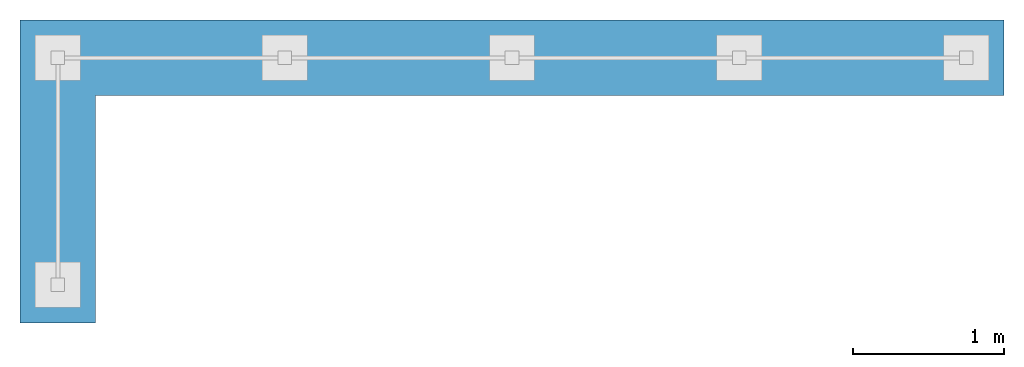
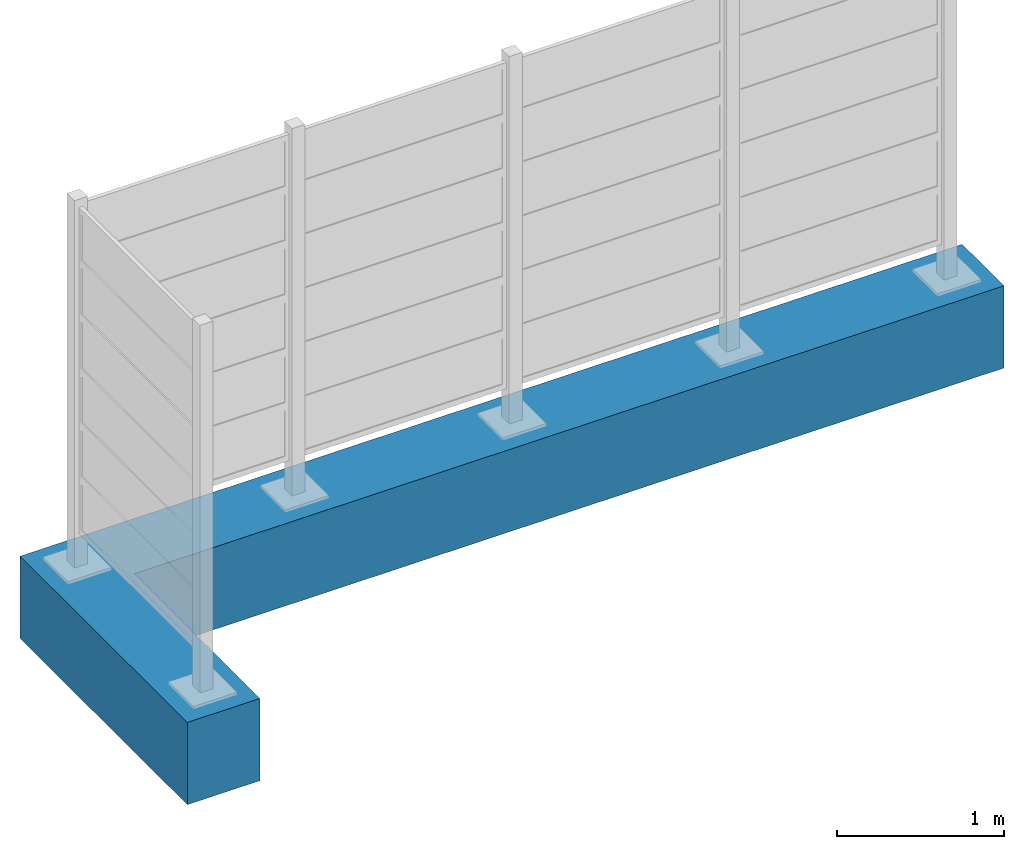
# One storey, part 1 of 2: 1 slab.
"""IFC4 building model written with IfcOpenShell, lengths in metres."""

import ifcopenshell
import ifcopenshell.guid

model = None  # the IFC model being written
_history = None  # IfcOwnerHistory: only IFC2X3 demands one
_inside = {}  # id of a spatial element -> (the spatial element, [elements in it])
_under = {}  # id of a project, library or spatial element -> (it, [spatial elements below it])
_declared = {}  # id of a project -> (the project, [libraries it declares])
_typed = {}  # id of a type object -> (the type object, [elements of that type])
_made_of = {}  # id of a material, layer set ... -> (it, [elements and type objects made of it])


def new_model(schema):
    """Start an empty IFC model of exactly this schema.

    Asked for "IFC4X3", IfcOpenShell would pick the latest addendum, in which some entities
    have other attributes; the version numbers below select the first issue.
    IFC2X3 requires an IfcOwnerHistory on every rooted entity: one is made here for all.
    """
    global model, _history
    if schema == "IFC4X3":
        model = ifcopenshell.file(schema_version=(4, 3, 0, 0))
    else:
        model = ifcopenshell.file(schema=schema)
    _inside.clear()
    _under.clear()
    _declared.clear()
    _typed.clear()
    _made_of.clear()
    _history = None
    if model.schema == "IFC2X3":
        org = make("IfcOrganization", Name="unknown")
        user = make(
            "IfcPersonAndOrganization",
            ThePerson=make("IfcPerson", FamilyName="unknown"),
            TheOrganization=org,
        )
        app = make(
            "IfcApplication",
            ApplicationDeveloper=org,
            Version="unknown",
            ApplicationFullName="unknown",
            ApplicationIdentifier="unknown",
        )
        _history = make(
            "IfcOwnerHistory",
            OwningUser=user,
            OwningApplication=app,
            ChangeAction="ADDED",
            CreationDate=0,
        )
    return model


def make(cls, **values):
    """One entity of the class cls with the attributes given. An attribute that is None is left unset."""
    return model.create_entity(
        cls, **{name: value for name, value in values.items() if value is not None}
    )


def entity(cls, *values):
    """Any entity or typed value of the class cls, its attributes in the order of the schema. None: left unset."""
    e = model.create_entity(cls)
    for i, value in enumerate(values):
        if value is not None:
            e[i] = value
    return e


def rooted(cls, **values):
    """An entity with a GlobalId (a new one), such as an element, a storey or a relation."""
    return make(cls, GlobalId=ifcopenshell.guid.new(), OwnerHistory=_history, **values)


def si_unit(unit_type, name, prefix=None):
    """IfcSIUnit, for example si_unit("LENGTHUNIT", "METRE", prefix="MILLI")."""
    return make("IfcSIUnit", UnitType=unit_type, Prefix=prefix, Name=name)


def converted_unit(unit_type, name, factor, base, dimensions=None, offset=None):
    """IfcConversionBasedUnit, such as the inch: factor (a typed value) times the base unit."""
    return make(
        "IfcConversionBasedUnit"
        if offset is None
        else "IfcConversionBasedUnitWithOffset",
        ConversionOffset=offset,
        Dimensions=None
        if dimensions is None
        else entity("IfcDimensionalExponents", *dimensions),
        UnitType=unit_type,
        Name=name,
        ConversionFactor=make(
            "IfcMeasureWithUnit", ValueComponent=factor, UnitComponent=base
        ),
    )


def assignment(units):
    """IfcUnitAssignment: the units of a project."""
    return None if units is None else make("IfcUnitAssignment", Units=units)


def point(xyz):
    """IfcCartesianPoint."""
    return None if xyz is None else make("IfcCartesianPoint", Coordinates=xyz)


def direction(xyz):
    """IfcDirection."""
    return None if xyz is None else make("IfcDirection", DirectionRatios=xyz)


def frame(location, z_axis=None, x_axis=None):
    """IfcAxis2Placement3D, a coordinate frame: its origin and axes. An axis left out is left unset."""
    return make(
        "IfcAxis2Placement3D",
        Location=point(location),
        Axis=direction(z_axis),
        RefDirection=direction(x_axis),
    )


def origin():
    """The frame at (0, 0, 0) with its axes left unset."""
    return frame((0.0, 0.0, 0.0))


def place(relative_to, where):
    """IfcLocalPlacement: puts the frame where relative to a parent placement (None: the world)."""
    return make(
        "IfcLocalPlacement", PlacementRelTo=relative_to, RelativePlacement=where
    )


def context(
    kind, dimensions, precision=None, world=None, true_north=None, identifier=None
):
    """IfcGeometricRepresentationContext, for example the 3D "Model" context."""
    return make(
        "IfcGeometricRepresentationContext",
        ContextIdentifier=identifier,
        ContextType=kind,
        CoordinateSpaceDimension=dimensions,
        Precision=precision,
        WorldCoordinateSystem=world,
        TrueNorth=true_north,
    )


def subcontext(parent, identifier, kind, view, scale=None):
    """IfcGeometricRepresentationSubContext, for example "Body" below "Model"."""
    return make(
        "IfcGeometricRepresentationSubContext",
        ContextIdentifier=identifier,
        ContextType=kind,
        ParentContext=parent,
        TargetScale=scale,
        TargetView=view,
    )


def project(units=None, contexts=None):
    """IfcProject with its units and contexts."""
    return rooted(
        "IfcProject",
        Name="project",
        RepresentationContexts=contexts,
        UnitsInContext=assignment(units),
    )


def spatial(cls, under=None, at=None, **own):
    """A site, building, storey or space (cls), placed at a placement, below another one or the project."""
    s = rooted(cls, ObjectPlacement=at, **own)
    if under is not None:
        _under.setdefault(under.id(), (under, []))[1].append(s)
    return s


def polyline(points):
    """IfcPolyline through the points."""
    return make("IfcPolyline", Points=[point(p) for p in points])


def outline(outer, holes=None, kind="AREA"):
    """IfcArbitraryClosedProfileDef: a profile drawn as a closed curve; with holes, ...WithVoids."""
    if holes is None:
        return make("IfcArbitraryClosedProfileDef", ProfileType=kind, OuterCurve=outer)
    return make(
        "IfcArbitraryProfileDefWithVoids",
        ProfileType=kind,
        OuterCurve=outer,
        InnerCurves=holes,
    )


def extrude(swept, where, along, depth):
    """IfcExtrudedAreaSolid: the profile swept, set in the frame where, extruded along a direction by depth."""
    return make(
        "IfcExtrudedAreaSolid",
        SweptArea=swept,
        Position=where,
        ExtrudedDirection=direction(along),
        Depth=depth,
    )


def shape(context_of_items, identifier, shape_type, items):
    """IfcShapeRepresentation: the items that make up one representation, for example the "Body"."""
    return make(
        "IfcShapeRepresentation",
        ContextOfItems=context_of_items,
        RepresentationIdentifier=identifier,
        RepresentationType=shape_type,
        Items=items,
    )


def material(Name=None, Category=None):
    """IfcMaterial."""
    return make("IfcMaterial", Name=Name, Category=Category)


def made_of(thing, what):
    """Note that an element or type object is made of a material, layer set ...; save() writes the relation."""
    if what is not None:
        _made_of.setdefault(what.id(), (what, []))[1].append(thing)
    return thing


def type_object(cls, material=None, **own):
    """A type object (cls), such as IfcWallType, which elements share."""
    return made_of(rooted(cls, **own), material)


def element(
    cls,
    number,
    at=None,
    inside=None,
    cuts=None,
    type_object=None,
    material=None,
    context=None,
    identifier="Body",
    shape_type=None,
    held_by="IfcProductDefinitionShape",
    body=None,
    shapes=None,
    **own,
):
    """One element of the class cls, such as IfcWall. Its Tag is "e" and its number.

    at: its placement. inside: the storey or other place that contains it. cuts: it is an
    opening in that element (IfcRelVoidsElement). A single representation is given by context,
    identifier, shape_type and body (its items); several are given by shapes. held_by: the class
    of the entity that holds the representations. save() writes the other relations.
    """
    e = rooted(cls, Tag="e%d" % number, ObjectPlacement=at, **own)
    if body is not None:
        shapes = [shape(context, identifier, shape_type, body)]
    if shapes is not None:
        e.Representation = make(held_by, Representations=shapes)
    if inside is not None:
        _inside.setdefault(inside.id(), (inside, []))[1].append(e)
    if cuts is not None:
        rooted(
            "IfcRelVoidsElement", RelatingBuildingElement=cuts, RelatedOpeningElement=e
        )
    if type_object is not None:
        _typed.setdefault(type_object.id(), (type_object, []))[1].append(e)
    return made_of(e, material)


def aggregate(whole, parts):
    """IfcRelAggregates: a whole, such as a stair, and the parts it consists of."""
    return rooted("IfcRelAggregates", RelatingObject=whole, RelatedObjects=parts)


def save(model, path):
    """Write the relations noted so far, then the file.

    IfcRelAggregates (storeys below a building ...), IfcRelContainedInSpatialStructure (elements
    in a storey), IfcRelDefinesByType, IfcRelAssociatesMaterial and IfcRelDeclares: one each for
    every whole, place, type object, material and project.
    """
    for whole, parts in _under.values():
        aggregate(whole, parts)
    for where, things in _inside.values():
        rooted(
            "IfcRelContainedInSpatialStructure",
            RelatedElements=things,
            RelatingStructure=where,
        )
    for kind, things in _typed.values():
        rooted("IfcRelDefinesByType", RelatedObjects=things, RelatingType=kind)
    for what, things in _made_of.values():
        rooted("IfcRelAssociatesMaterial", RelatedObjects=things, RelatingMaterial=what)
    for by, libraries in _declared.values():
        rooted("IfcRelDeclares", RelatingContext=by, RelatedDefinitions=libraries)
    model.write(path)


model = new_model("IFC4")

# Units and contexts
model_context = context("Model", 3, precision=1e-05, world=origin(), true_north=direction((6.123031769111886e-17, 1.0)))
body_context = subcontext(model_context, "Body", "Model", "MODEL_VIEW")
ifc_project = project(units=[si_unit("LENGTHUNIT", "METRE"), converted_unit("PLANEANGLEUNIT", "DEGREE", entity("IfcPlaneAngleMeasure", 0.017453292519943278), si_unit("PLANEANGLEUNIT", "RADIAN"), dimensions=[0, 0, 0, 0, 0, 0, 0]), si_unit("AREAUNIT", "SQUARE_METRE")], contexts=[model_context])

# Site, building, storey
site_placement = place(None, origin())
site = spatial("IfcSite", under=ifc_project, at=site_placement, Name="Default", CompositionType="ELEMENT")
building_placement = place(site_placement, origin())
building = spatial("IfcBuilding", under=site, at=building_placement, CompositionType="ELEMENT")
storey_placement = place(building_placement, origin())
storey = spatial("IfcBuildingStorey", under=building, at=storey_placement, Name="DB_Bezugshoehe_max_Bahnsteigkante", CompositionType="ELEMENT", Elevation=0.0)

# Slab
ifc_material = material(Name="DB_Ortbeton", Category="DB_Beton")
slab_type = type_object("IfcSlabType", Name="DB_Windschutz_4-feldrig_L_Fundament:DB_Windschutz_4-feldrig_L_Fundament", PredefinedType="BASESLAB", material=ifc_material)
slab_placement = place(storey_placement, origin())
element("IfcSlab", 1, at=slab_placement, inside=storey, type_object=slab_type, Name="DB_Windschutz_4-feldrig_L_Fundament:DB_Windschutz_4-feldrig_L_Fundament", ObjectType="DB_Windschutz_4-feldrig_L_Fundament:DB_Windschutz_4-feldrig_L_Fundament", PredefinedType="BASESLAB", context=body_context, shape_type="SweptSolid", body=[
    extrude(outline(polyline([(-0.3550000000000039, 0.18749999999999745), (4.285, 0.18749999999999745), (4.285, 0.6874999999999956), (-0.3549999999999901, 0.6874999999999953), (-2.215000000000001, 0.6874999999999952), (-2.215000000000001, -1.3125000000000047), (-1.7150000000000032, -1.3124999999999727), (-1.7150000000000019, 0.18749999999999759), (-0.3550000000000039, 0.18749999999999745)])), frame((1.9650000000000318, 1.0625000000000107, 0.0)), (0.0, 0.0, 1.0), 0.5999999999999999),
])

save(model, "model.ifc")
